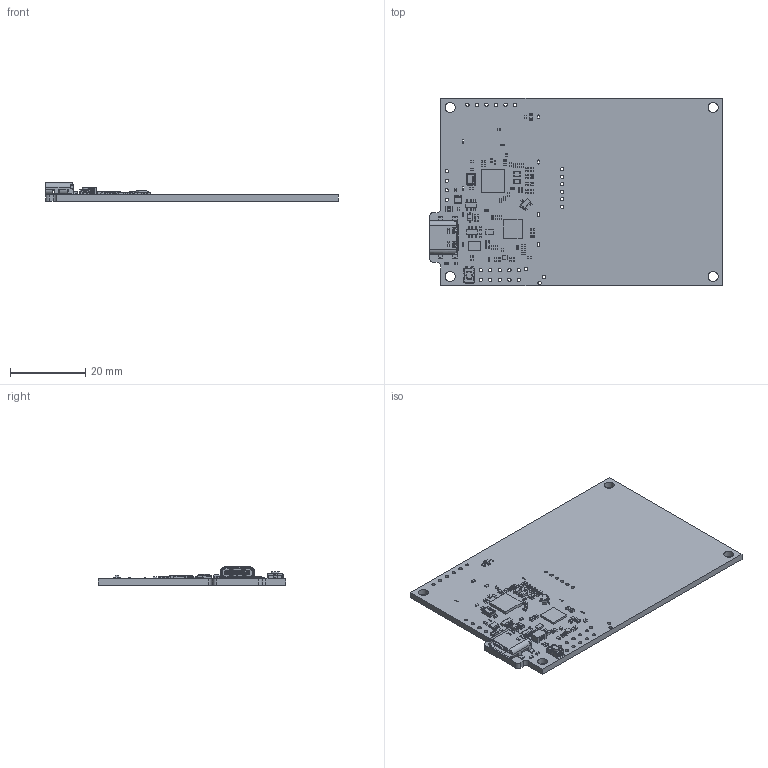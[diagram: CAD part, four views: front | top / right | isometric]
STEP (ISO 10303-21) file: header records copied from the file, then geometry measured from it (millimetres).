
FILE_DESCRIPTION(('Open CASCADE Model'),'2;1');
FILE_NAME('Open CASCADE Shape Model','2026-09-21T12:56:16',('Author'),( 'Open CASCADE'),'Open CASCADE STEP processor 6.8','Open CASCADE 6.8' ,'Unknown');
FILE_SCHEMA(('AUTOMOTIVE_DESIGN { 1 0 10303 214 1 1 1 1 }'));
Length unit declared in the file: millimetre
Products named in the file (118): PCB; Board; R33; User_Library-Chip_Resistor2; T1; User_Library-SOT23-3; J5; USB4940-00-A; USB4940-00-A_PART1; C63; cap_0402; C62; C48; C40; C39; C38; C34; U7; User_Library-SOT457; User_Library-SOT457_body; User_Library-SOT457_pin; R30; R29; R28; LED1; blue_led_0603; User_Library-LTST-C190TBKT_Pad; User_Library-LTST-C190TBKT_Pad005; User_Library-LTST-C190TBKT_Pad001; User_Library-LTST-C190TBKT_Pad004; User_Library-LTST-C190TBKT_Pad003; User_Library-LTST-C190TBKT_Lens; C74; TVS1; SOD-323; C71; C70; C69; C68; CMC2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
Assembly tree (261 placements, depth 4):
  PCB
    Board
    R33
      User_Library-Chip_Resistor2
    T1
      User_Library-SOT23-3
    J5
      USB4940-00-A
        USB4940-00-A_PART1
    C63
      cap_0402
    C62
      cap_0402
    C48
      cap_0402
    C40
      cap_0402
    C39
      cap_0402
    C38
      cap_0402
    C34
      cap_0402
    U7
      User_Library-SOT457
        User_Library-SOT457_body
        User_Library-SOT457_pin  x6
    R30
      User_Library-Chip_Resistor2
    R29
      User_Library-Chip_Resistor2
    R28
      User_Library-Chip_Resistor2
    LED1
      blue_led_0603
        User_Library-LTST-C190TBKT_Pad
        User_Library-LTST-C190TBKT_Pad005
        User_Library-LTST-C190TBKT_Pad001
        User_Library-LTST-C190TBKT_Pad004
        User_Library-LTST-C190TBKT_Pad003
        User_Library-LTST-C190TBKT_Lens
    C74
      cap_0402
    TVS1
      SOD-323
    C71
      cap_0402
    C70
      cap_0402
    C69
      cap_0402
    C68
      cap_0402
    CMC2
      100936848
        Extruded
    FB6
      User_Library-Chip_Inductor_(1)
    C8
      cap_0402
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Bounding box: 78 x 50 x 4.9 mm (x, y, z)
Volume: 6566.9 mm3; surface area: 9334 mm2
Topology: 188 solids, 188 shells, 6187 faces, 15232 edges, 8820 vertices
Faces by surface type: cylinder 2483, plane 2329, bspline 786, sphere 546, cone 30, torus 13
Full cylindrical faces by diameter (mm): 0.5 x2, 0.6 x3, 0.65 x2, 0.7 x4, 0.889 x3, 0.9 x26, 1.2 x1, 2.7 x4
Entity records: 79047 total; most frequent: CARTESIAN_POINT 17564, ORIENTED_EDGE 10744, DIRECTION 10526, EDGE_CURVE 5372, LINE 3808, VECTOR 3808, VERTEX_POINT 3438, AXIS2_PLACEMENT_3D 3359
